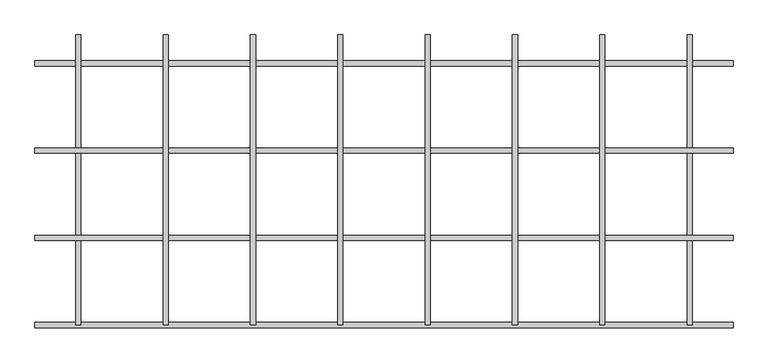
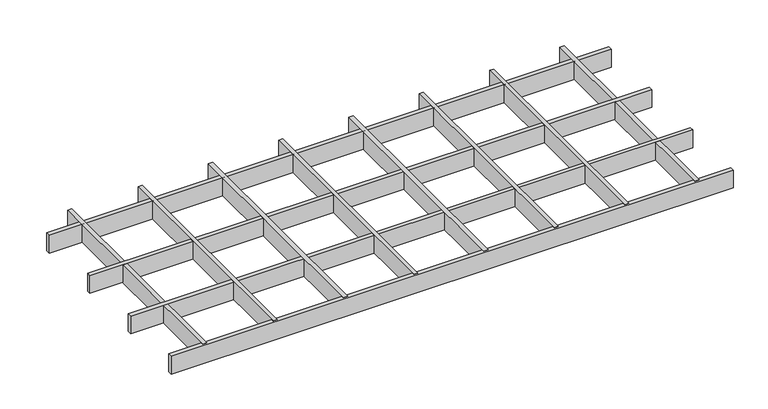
"""IFC4 building model written with IfcOpenShell, lengths in millimetres: proxy geometry, durlum_GEO_panel : durlum_GEO_9_width_cut."""

from ifc_helpers import new_model, si_unit, origin, origin_with_axes, place, context, project, spatial, polyline, outline, extrude, source, transform, mapped, element, save


def generic_models_111ba9e5(model_context):
    return source(origin(), model_context, "Body", "SweptSolid", [
        extrude(outline(polyline([(370.5, 249.5), (379.5, 249.5), (379.5, -249.5), (370.5, -249.5), (370.5, 249.5)])), origin_with_axes(), (0.0, 0.0, 1.0), 40.0),
        extrude(outline(polyline([(220.5, 249.5), (229.5, 249.5), (229.5, -249.5), (220.5, -249.5), (220.5, 249.5)])), origin_with_axes(), (0.0, 0.0, 1.0), 40.0),
        extrude(outline(polyline([(70.5, 249.5), (79.5, 249.5), (79.5, -249.5), (70.5, -249.5), (70.5, 249.5)])), origin_with_axes(), (0.0, 0.0, 1.0), 40.0),
        extrude(outline(polyline([(-79.5, 249.5), (-70.5, 249.5), (-70.5, -249.5), (-79.5, -249.5), (-79.5, 249.5)])), origin_with_axes(), (0.0, 0.0, 1.0), 40.0),
        extrude(outline(polyline([(-229.5, 249.5), (-220.5, 249.5), (-220.5, -249.5), (-229.5, -249.5), (-229.5, 249.5)])), origin_with_axes(), (0.0, 0.0, 1.0), 40.0),
        extrude(outline(polyline([(-379.5, 249.5), (-370.5, 249.5), (-370.5, -249.5), (-379.5, -249.5), (-379.5, 249.5)])), origin_with_axes(), (0.0, 0.0, 1.0), 40.0),
        extrude(outline(polyline([(599.5, -95.0), (599.5, -104.0), (-599.5, -104.0), (-599.5, -95.0), (599.5, -95.0)])), origin_with_axes(), (0.0, 0.0, 1.0), 40.0),
        extrude(outline(polyline([(599.5, 55.0), (599.5, 46.0), (-599.5, 46.0), (-599.5, 55.0), (599.5, 55.0)])), origin_with_axes(), (0.0, 0.0, 1.0), 40.0),
        extrude(outline(polyline([(520.5, 249.5), (529.5, 249.5), (529.5, -249.5), (520.5, -249.5), (520.5, 249.5)])), origin_with_axes(), (0.0, 0.0, 1.0), 40.0),
        extrude(outline(polyline([(-529.5, 249.5), (-520.5, 249.5), (-520.5, -249.5), (-529.5, -249.5), (-529.5, 249.5)])), origin_with_axes(), (0.0, 0.0, 1.0), 40.0),
        extrude(outline(polyline([(599.5, -245.0), (599.5, -254.0), (-599.5, -254.0), (-599.5, -245.0), (599.5, -245.0)])), origin_with_axes(), (0.0, 0.0, 1.0), 40.0),
        extrude(outline(polyline([(599.5, 205.0), (599.5, 196.0), (-599.5, 196.0), (-599.5, 205.0), (599.5, 205.0)])), origin_with_axes(), (0.0, 0.0, 1.0), 40.0),
    ])


if __name__ == "__main__":
    model = new_model("IFC4")
    model_context = context("Model", 3, world=origin())
    ifc_project = project(units=[si_unit("LENGTHUNIT", "METRE", prefix="MILLI")], contexts=[model_context])
    site = spatial("IfcSite", under=ifc_project)
    building = spatial("IfcBuilding", under=site)
    placement = place(None, origin())
    generic_models_shape = generic_models_111ba9e5(model_context)
    element("IfcBuildingElementProxy", 1, Name="durlum_GEO_panel : durlum_GEO_9_width_cut", ObjectType="durlum_GEO_panel : durlum_GEO_9_width_cut", at=placement, inside=building, context=model_context, shape_type="MappedRepresentation", body=[
        mapped(generic_models_shape, transform((0.0, 0.0, 0.0), x_axis=(1.0, 0.0, 0.0), y_axis=(0.0, 1.0, 0.0), z_axis=(0.0, 0.0, 1.0))),
    ])
    save(model, "model.ifc")
